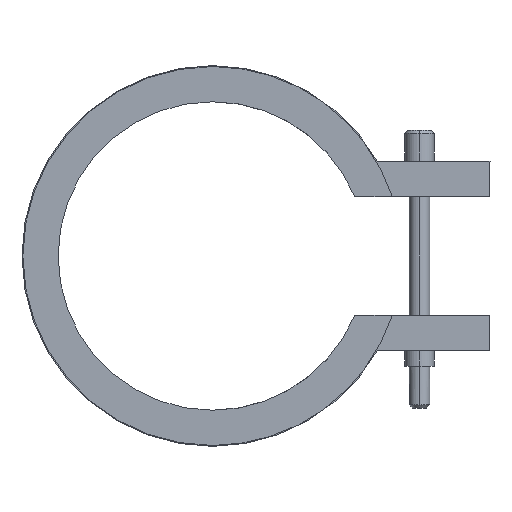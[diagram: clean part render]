
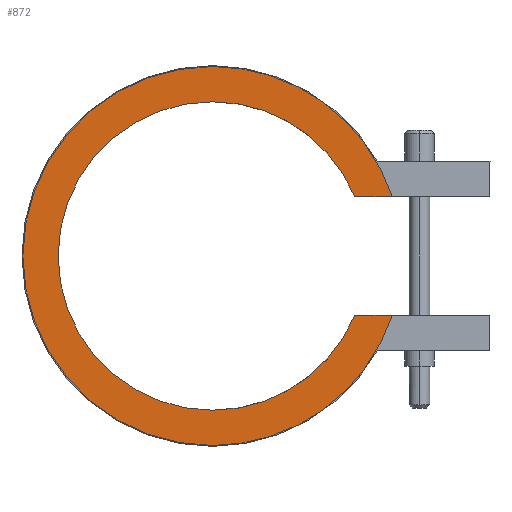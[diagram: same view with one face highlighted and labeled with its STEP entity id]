
A CAD part, left-side view. The second image highlights one B-rep face of the part: STEP entity #872.
In plain terms, the highlighted planar face has unit normal (-1, 0, 0).
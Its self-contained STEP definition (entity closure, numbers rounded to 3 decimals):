
#410=CARTESIAN_POINT('Vertex',(-12.5,-16.146,-6.75)) ;
#413=CARTESIAN_POINT('Line Origine',(-12.5,-18.279,-6.75)) ;
#417=CARTESIAN_POINT('Vertex',(-12.5,-20.413,-6.75)) ;
#463=CARTESIAN_POINT('Vertex',(-12.5,0.,-21.5)) ;
#466=CARTESIAN_POINT('Axis2P3D Location',(-12.5,0.,0.)) ;
#487=CARTESIAN_POINT('Vertex',(-12.5,0.,21.5)) ;
#490=CARTESIAN_POINT('Axis2P3D Location',(-12.5,0.,0.)) ;
#502=CARTESIAN_POINT('Axis2P3D Location',(-12.5,0.,0.)) ;
#506=CARTESIAN_POINT('Vertex',(-12.5,-20.413,6.75)) ;
#526=CARTESIAN_POINT('Line Origine',(-12.5,-18.279,6.75)) ;
#530=CARTESIAN_POINT('Vertex',(-12.5,-16.146,6.75)) ;
#818=CARTESIAN_POINT('Axis2P3D Location',(-12.5,0.,0.)) ;
#822=CARTESIAN_POINT('Vertex',(-12.5,0.,-17.5)) ;
#845=CARTESIAN_POINT('Axis2P3D Location',(-12.5,0.,0.)) ;
#850=CARTESIAN_POINT('Axis2P3D Location',(-12.5,0.,0.)) ;
#854=CARTESIAN_POINT('Vertex',(-12.5,0.,17.5)) ;
#857=CARTESIAN_POINT('Axis2P3D Location',(-12.5,0.,0.)) ;
#414=DIRECTION('Vector Direction',(0.,1.,0.)) ;
#467=DIRECTION('Axis2P3D Direction',(1.,0.,-0.)) ;
#491=DIRECTION('Axis2P3D Direction',(1.,0.,-0.)) ;
#503=DIRECTION('Axis2P3D Direction',(1.,0.,-0.)) ;
#527=DIRECTION('Vector Direction',(0.,-1.,0.)) ;
#819=DIRECTION('Axis2P3D Direction',(1.,0.,-0.)) ;
#846=DIRECTION('Axis2P3D Direction',(1.,0.,0.)) ;
#847=DIRECTION('Axis2P3D XDirection',(0.,0.,-1.)) ;
#851=DIRECTION('Axis2P3D Direction',(1.,0.,0.)) ;
#858=DIRECTION('Axis2P3D Direction',(1.,0.,0.)) ;
#468=AXIS2_PLACEMENT_3D('Circle Axis2P3D',#466,#467,$) ;
#492=AXIS2_PLACEMENT_3D('Circle Axis2P3D',#490,#491,$) ;
#504=AXIS2_PLACEMENT_3D('Circle Axis2P3D',#502,#503,$) ;
#820=AXIS2_PLACEMENT_3D('Circle Axis2P3D',#818,#819,$) ;
#848=AXIS2_PLACEMENT_3D('Plane Axis2P3D',#845,#846,#847) ;
#852=AXIS2_PLACEMENT_3D('Circle Axis2P3D',#850,#851,$) ;
#859=AXIS2_PLACEMENT_3D('Circle Axis2P3D',#857,#858,$) ;
#863=ORIENTED_EDGE('',*,*,#419,.T.) ;
#864=ORIENTED_EDGE('',*,*,#824,.T.) ;
#865=ORIENTED_EDGE('',*,*,#856,.T.) ;
#866=ORIENTED_EDGE('',*,*,#861,.T.) ;
#867=ORIENTED_EDGE('',*,*,#532,.T.) ;
#868=ORIENTED_EDGE('',*,*,#508,.F.) ;
#869=ORIENTED_EDGE('',*,*,#494,.F.) ;
#870=ORIENTED_EDGE('',*,*,#470,.F.) ;
#415=VECTOR('Line Direction',#414,1.) ;
#528=VECTOR('Line Direction',#527,1.) ;
#872=ADVANCED_FACE('14035025',(#871),#849,.F.) ;
#469=CIRCLE('generated circle',#468,21.5) ;
#493=CIRCLE('generated circle',#492,21.5) ;
#505=CIRCLE('generated circle',#504,21.5) ;
#821=CIRCLE('generated circle',#820,17.5) ;
#853=CIRCLE('generated circle',#852,17.5) ;
#860=CIRCLE('generated circle',#859,17.5) ;
#419=EDGE_CURVE('',#418,#411,#416,.T.) ;
#470=EDGE_CURVE('',#418,#464,#469,.T.) ;
#494=EDGE_CURVE('',#464,#488,#493,.T.) ;
#508=EDGE_CURVE('',#488,#507,#505,.T.) ;
#532=EDGE_CURVE('',#531,#507,#529,.T.) ;
#824=EDGE_CURVE('',#411,#823,#821,.T.) ;
#856=EDGE_CURVE('',#823,#855,#853,.T.) ;
#861=EDGE_CURVE('',#855,#531,#860,.T.) ;
#862=EDGE_LOOP('',(#863,#864,#865,#866,#867,#868,#869,#870)) ;
#871=FACE_OUTER_BOUND('',#862,.T.) ;
#416=LINE('Line',#413,#415) ;
#529=LINE('Line',#526,#528) ;
#849=PLANE('Plane',#848) ;
#411=VERTEX_POINT('',#410) ;
#418=VERTEX_POINT('',#417) ;
#464=VERTEX_POINT('',#463) ;
#488=VERTEX_POINT('',#487) ;
#507=VERTEX_POINT('',#506) ;
#531=VERTEX_POINT('',#530) ;
#823=VERTEX_POINT('',#822) ;
#855=VERTEX_POINT('',#854) ;
